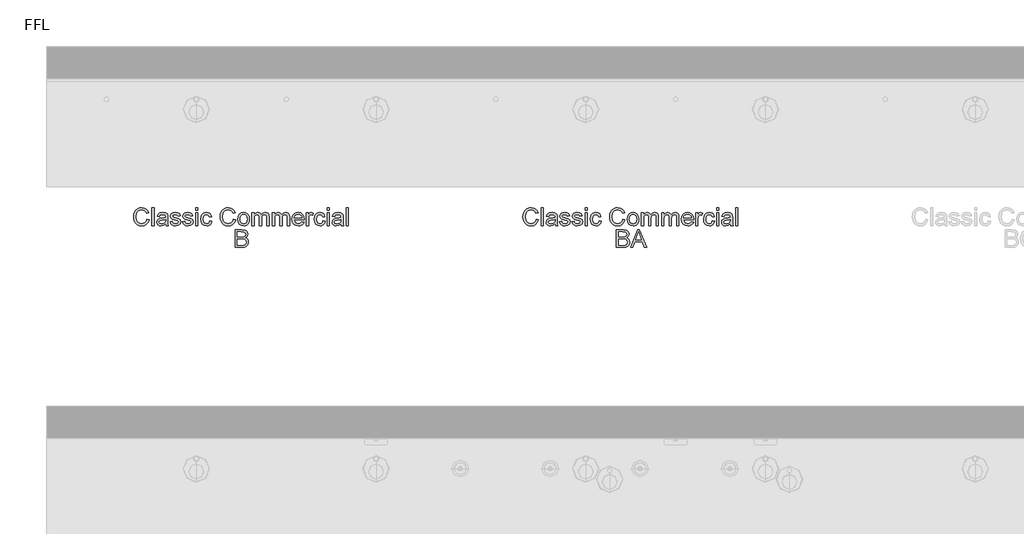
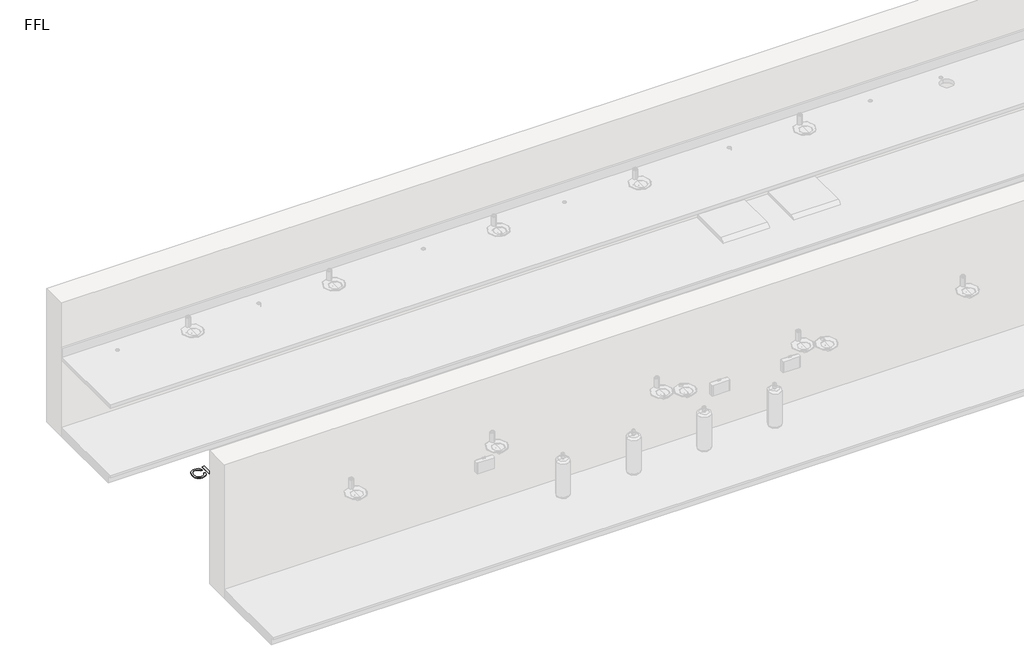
# One storey, part 7 of 13: 2 proxies.
"""IFC4 building model written with IfcOpenShell, lengths in millimetres."""

from ifc_helpers import new_model, si_unit, origin, origin_with_axes, place, context, project, spatial, polyline, outline, extrude, element, save

model = new_model("IFC4")

# Units and contexts
model_context = context("Model", 3, world=origin())
ifc_project = project(units=[si_unit("LENGTHUNIT", "METRE", prefix="MILLI")], contexts=[model_context])

# Site, building, storey
site = spatial("IfcSite", under=ifc_project)
building = spatial("IfcBuilding", under=site)
storey = spatial("IfcBuildingStorey", under=building, Name="FFL", Elevation=0.0)

# Proxies
placement = place(None, origin())
element("IfcBuildingElementProxy", 1, Name="150mm Arial", ObjectType="150mm Arial", at=placement, inside=storey, context=model_context, shape_type="SweptSolid", body=[
    extrude(outline(polyline([(-6132.8122159, 6676.3018309), (-6114.3506775, 6671.5422155), (-6122.8693073, 6650.0292948), (-6136.2376967, 6634.3126482), (-6153.7977929, 6624.698766), (-6174.8915429, 6621.4941386), (-6196.3053049, 6623.9190184), (-6213.311014, 6631.1936578), (-6226.3458698, 6643.065653), (-6235.8470717, 6659.2826001), (-6241.647853, 6678.3481049), (-6243.5814467, 6698.7657732), (-6241.3954491, 6720.3012299), (-6234.8374563, 6738.8979847), (-6224.2500164, 6753.9655929), (-6209.9756775, 6764.9136097), (-6193.0465909, 6771.5797756), (-6174.4949083, 6773.8018309), (-6154.2530212, 6770.9262299), (-6137.5177448, 6762.299427), (-6124.8119155, 6748.4532732), (-6116.6583698, 6729.9196193), (-6135.1199083, 6725.5205809), (-6141.5201486, 6738.9836217), (-6150.264139, 6748.2188982), (-6161.4600525, 6753.5599439), (-6175.2160621, 6755.3402924), (-6191.0724323, 6753.3661338), (-6204.0982736, 6747.4436578), (-6213.9825885, 6738.1948597), (-6220.4143794, 6726.2417347), (-6225.1199083, 6698.8018309), (-6219.5489948, 6666.9989463), (-6212.4276006, 6655.1224439), (-6202.2052448, 6646.6804367), (-6189.9501366, 6641.6368669), (-6176.7304852, 6639.955677), (-6161.3203289, 6642.2453405), (-6148.4792833, 6649.1143309), (-6138.7842712, 6660.4905328), (-6132.8122159, 6676.3018309)])), origin_with_axes(), (0.0, 0.0, 1.0), 5.0),
    extrude(outline(polyline([(-6091.2737544, 6623.8018309), (-6091.2737544, 6771.4941386), (-6072.8122159, 6771.4941386), (-6072.8122159, 6623.8018309), (-6091.2737544, 6623.8018309)])), origin_with_axes(), (0.0, 0.0, 1.0), 5.0),
    extrude(outline(polyline([(-5975.889139, 6637.6479847), (-5993.7917833, 6625.1359655), (-6013.5694275, 6621.4941386), (-6028.9976126, 6623.6846434), (-6040.3783217, 6630.2561578), (-6047.3960501, 6640.2351242), (-6049.7352929, 6652.6479847), (-6046.201639, 6667.2513501), (-6036.9167833, 6677.8523117), (-6023.9901006, 6683.910004), (-6008.0165429, 6686.6864463), (-5975.9973121, 6693.0326001), (-5975.889139, 6697.143177), (-5977.1601727, 6705.3823597), (-5980.9732736, 6710.7729847), (-5989.5009179, 6714.7753886), (-6001.3819275, 6716.1095232), (-6020.0598121, 6712.5578405), (-6028.9660621, 6699.955677), (-6047.4276006, 6702.2633693), (-6039.4408217, 6720.2922155), (-6023.3590909, 6730.8571193), (-5999.0021198, 6734.5710617), (-5976.6283217, 6731.2898117), (-5963.9901006, 6723.050629), (-5958.3290429, 6710.5205809), (-5957.4276006, 6694.3667347), (-5957.4276006, 6671.3979847), (-5956.4901006, 6639.3246674), (-5952.8122159, 6623.8018309), (-5971.2737544, 6623.8018309), (-5975.889139, 6637.6479847)]), holes=[polyline([(-5975.889139, 6674.5710617), (-6005.6727929, 6668.910004), (-6021.5562063, 6665.9172155), (-6028.7497159, 6661.049427), (-6031.2737544, 6653.9460617), (-6025.7749563, 6643.9580809), (-6009.639139, 6639.955677), (-5990.9612544, 6644.3727443), (-5978.9179852, 6655.0638501), (-5975.9973121, 6669.3426963), (-5975.889139, 6674.5710617)])]), origin_with_axes(), (0.0, 0.0, 1.0), 5.0),
    extrude(outline(polyline([(-5938.9660621, 6656.1095232), (-5920.5045236, 6658.4172155), (-5917.592865, 6650.5205809), (-5911.9588506, 6644.7152924), (-5892.3795236, 6639.955677), (-5873.5574083, 6644.3186578), (-5867.4276006, 6654.5590424), (-5873.5934659, 6662.8523117), (-5892.5958698, 6668.1167347), (-5920.3963506, 6677.1491867), (-5932.529764, 6687.6960617), (-5936.6583698, 6702.5878886), (-5933.3410621, 6716.3438982), (-5924.2905813, 6726.8547155), (-5912.5538025, 6732.3174559), (-5896.670389, 6734.5710617), (-5874.2064467, 6730.9472636), (-5859.9276006, 6721.1395713), (-5853.5814467, 6704.5710617), (-5872.0429852, 6702.2633693), (-5878.9840909, 6712.4496674), (-5895.2280813, 6716.1095232), (-5912.8963506, 6712.611927), (-5918.1968313, 6704.4628886), (-5915.9973121, 6699.0902924), (-5909.1102929, 6695.0157732), (-5893.2088506, 6691.0854847), (-5866.1114948, 6682.3955809), (-5853.5273602, 6672.5518309), (-5848.9660621, 6656.5061578), (-5854.3206294, 6638.8378886), (-5869.7713506, 6626.019379), (-5892.6319275, 6621.4941386), (-5911.2467111, 6623.675629), (-5924.8314467, 6630.2201001), (-5933.8999563, 6641.0554367), (-5938.9660621, 6656.1095232)])), origin_with_axes(), (0.0, 0.0, 1.0), 5.0),
    extrude(outline(polyline([(-5835.1199083, 6656.1095232), (-5816.6583698, 6658.4172155), (-5813.7467111, 6650.5205809), (-5808.1126967, 6644.7152924), (-5788.5333698, 6639.955677), (-5769.7112544, 6644.3186578), (-5763.5814467, 6654.5590424), (-5769.7473121, 6662.8523117), (-5788.7497159, 6668.1167347), (-5816.5501967, 6677.1491867), (-5828.6836102, 6687.6960617), (-5832.8122159, 6702.5878886), (-5829.4949083, 6716.3438982), (-5820.4444275, 6726.8547155), (-5808.7076486, 6732.3174559), (-5792.8242352, 6734.5710617), (-5770.3602929, 6730.9472636), (-5756.0814467, 6721.1395713), (-5749.7352929, 6704.5710617), (-5768.1968313, 6702.2633693), (-5775.1379371, 6712.4496674), (-5791.3819275, 6716.1095232), (-5809.0501967, 6712.611927), (-5814.3506775, 6704.4628886), (-5812.1511583, 6699.0902924), (-5805.264139, 6695.0157732), (-5789.3626967, 6691.0854847), (-5762.2653409, 6682.3955809), (-5749.6812063, 6672.5518309), (-5745.1199083, 6656.5061578), (-5750.4744756, 6638.8378886), (-5765.9251967, 6626.019379), (-5788.7857736, 6621.4941386), (-5807.4005573, 6623.675629), (-5820.9852929, 6630.2201001), (-5830.0538025, 6641.0554367), (-5835.1199083, 6656.1095232)])), origin_with_axes(), (0.0, 0.0, 1.0), 5.0),
    extrude(outline(polyline([(-5724.3506775, 6623.8018309), (-5724.3506775, 6732.2633693), (-5705.889139, 6732.2633693), (-5705.889139, 6623.8018309), (-5724.3506775, 6623.8018309)])), origin_with_axes(), (0.0, 0.0, 1.0), 5.0),
    extrude(outline(polyline([(-5724.3506775, 6753.0326001), (-5724.3506775, 6771.4941386), (-5705.889139, 6771.4941386), (-5705.889139, 6753.0326001), (-5724.3506775, 6753.0326001)])), origin_with_axes(), (0.0, 0.0, 1.0), 5.0),
    extrude(outline(polyline([(-5608.9660621, 6663.0326001), (-5590.5045236, 6660.7249078), (-5595.6517592, 6644.3051362), (-5605.3242352, 6631.8967828), (-5618.6114948, 6624.0947996), (-5634.6030813, 6621.4941386), (-5654.241002, 6625.1224439), (-5669.5970717, 6636.0073597), (-5679.5084299, 6653.6711217), (-5682.8122159, 6677.6359655), (-5677.1691871, 6708.3030328), (-5670.0477929, 6719.8009294), (-5659.9696679, 6728.0085617), (-5647.912877, 6732.9304367), (-5634.8554852, 6734.5710617), (-5619.256026, 6732.3174559), (-5606.7845717, 6725.5566386), (-5597.8377568, 6714.6491867), (-5592.8122159, 6699.955677), (-5611.2737544, 6697.6479847), (-5619.8374563, 6711.4761097), (-5634.7112544, 6716.1095232), (-5646.6418434, 6713.8288742), (-5656.1114948, 6706.986927), (-5662.2908818, 6695.2140905), (-5664.3506775, 6678.1407732), (-5662.3359539, 6660.8375881), (-5656.2917833, 6649.0241867), (-5646.9934059, 6642.2228044), (-5635.2160621, 6639.955677), (-5625.6562664, 6641.3709415), (-5617.8182256, 6645.6167347), (-5612.116603, 6652.8012299), (-5608.9660621, 6663.0326001)])), origin_with_axes(), (0.0, 0.0, 1.0), 5.0),
    extrude(outline(polyline([(-5410.5045236, 6676.3018309), (-5392.0429852, 6671.5422155), (-5400.561615, 6650.0292948), (-5413.9300044, 6634.3126482), (-5431.4901006, 6624.698766), (-5452.5838506, 6621.4941386), (-5473.9976126, 6623.9190184), (-5491.0033217, 6631.1936578), (-5504.0381775, 6643.065653), (-5513.5393794, 6659.2826001), (-5519.3401607, 6678.3481049), (-5521.2737544, 6698.7657732), (-5519.0877568, 6720.3012299), (-5512.529764, 6738.8979847), (-5501.9423241, 6753.9655929), (-5487.6679852, 6764.9136097), (-5470.7388986, 6771.5797756), (-5452.1872159, 6773.8018309), (-5431.9453289, 6770.9262299), (-5415.2100525, 6762.299427), (-5402.5042232, 6748.4532732), (-5394.3506775, 6729.9196193), (-5412.8122159, 6725.5205809), (-5419.2124563, 6738.9836217), (-5427.9564467, 6748.2188982), (-5439.1523602, 6753.5599439), (-5452.9083698, 6755.3402924), (-5468.76474, 6753.3661338), (-5481.7905813, 6747.4436578), (-5491.6748962, 6738.1948597), (-5498.1066871, 6726.2417347), (-5502.8122159, 6698.8018309), (-5497.2413025, 6666.9989463), (-5490.1199083, 6655.1224439), (-5479.8975525, 6646.6804367), (-5467.6424443, 6641.6368669), (-5454.4227929, 6639.955677), (-5439.0126366, 6642.2453405), (-5426.1715909, 6649.1143309), (-5416.4765789, 6660.4905328), (-5410.5045236, 6676.3018309)])), origin_with_axes(), (0.0, 0.0, 1.0), 5.0),
    extrude(outline(polyline([(-5373.5814467, 6678.0326001), (-5369.5880573, 6704.1834415), (-5357.607889, 6722.5638501), (-5342.8062063, 6731.5692588), (-5325.0838506, 6734.5710617), (-5305.6893193, 6730.9157131), (-5290.1980333, 6719.9496674), (-5280.0432857, 6702.5383092), (-5276.6583698, 6679.5470232), (-5278.154764, 6660.8961818), (-5282.6439467, 6646.6984655), (-5289.9952087, 6636.0659535), (-5300.0778409, 6628.1107251), (-5312.053502, 6623.1482852), (-5325.0838506, 6621.4941386), (-5344.7127568, 6625.1359655), (-5360.186014, 6636.0614463), (-5370.2325885, 6653.8378886), (-5373.5814467, 6678.0326001)]), holes=[polyline([(-5355.1199083, 6678.0686578), (-5352.98349, 6661.3604246), (-5346.5742352, 6649.456879), (-5336.9288025, 6642.3309775), (-5325.0838506, 6639.955677), (-5313.2929852, 6642.3444992), (-5303.6655813, 6649.5109655), (-5297.2563265, 6661.5722636), (-5295.1199083, 6678.6455809), (-5297.2698482, 6694.8670352), (-5303.7196679, 6706.6083213), (-5313.3605934, 6713.7342227), (-5325.0838506, 6716.1095232), (-5336.9288025, 6713.7432371), (-5346.5742352, 6706.644379), (-5352.98349, 6694.7678766), (-5355.1199083, 6678.0686578)])]), origin_with_axes(), (0.0, 0.0, 1.0), 5.0),
    extrude(outline(polyline([(-5255.889139, 6623.8018309), (-5255.889139, 6732.2633693), (-5237.4276006, 6732.2633693), (-5237.4276006, 6714.4148117), (-5224.7352929, 6729.0362059), (-5206.670389, 6734.5710617), (-5196.4029611, 6733.1603044), (-5188.1727929, 6728.9280328), (-5178.0045236, 6713.1167347), (-5163.5994756, 6729.2074799), (-5145.4083698, 6734.5710617), (-5131.5306655, 6732.3399919), (-5121.2677448, 6725.6467828), (-5114.9260982, 6714.3111458), (-5112.8122159, 6698.1527924), (-5112.8122159, 6623.8018309), (-5131.2737544, 6623.8018309), (-5131.2737544, 6690.2201001), (-5132.9864948, 6705.6347636), (-5139.1884179, 6713.2249078), (-5149.7352929, 6716.1095232), (-5159.7367953, 6714.2615665), (-5167.8903409, 6708.7176963), (-5173.3125164, 6699.0993068), (-5175.1199083, 6685.0277924), (-5175.1199083, 6623.8018309), (-5193.5814467, 6623.8018309), (-5193.5814467, 6692.2753886), (-5197.8542833, 6710.160004), (-5203.4928049, 6714.6221434), (-5211.8626967, 6716.1095232), (-5225.5285621, 6712.143177), (-5234.6151006, 6700.5326001), (-5237.4276006, 6678.5013501), (-5237.4276006, 6623.8018309), (-5255.889139, 6623.8018309)])), origin_with_axes(), (0.0, 0.0, 1.0), 5.0),
    extrude(outline(polyline([(-5085.1199083, 6623.8018309), (-5085.1199083, 6732.2633693), (-5066.6583698, 6732.2633693), (-5066.6583698, 6714.4148117), (-5053.9660621, 6729.0362059), (-5035.9011583, 6734.5710617), (-5025.6337304, 6733.1603044), (-5017.4035621, 6728.9280328), (-5007.2352929, 6713.1167347), (-4992.8302448, 6729.2074799), (-4974.639139, 6734.5710617), (-4960.7614347, 6732.3399919), (-4950.498514, 6725.6467828), (-4944.1568674, 6714.3111458), (-4942.0429852, 6698.1527924), (-4942.0429852, 6623.8018309), (-4960.5045236, 6623.8018309), (-4960.5045236, 6690.2201001), (-4962.217264, 6705.6347636), (-4968.4191871, 6713.2249078), (-4978.9660621, 6716.1095232), (-4988.9675645, 6714.2615665), (-4997.1211102, 6708.7176963), (-5002.5432857, 6699.0993068), (-5004.3506775, 6685.0277924), (-5004.3506775, 6623.8018309), (-5022.8122159, 6623.8018309), (-5022.8122159, 6692.2753886), (-5027.0850525, 6710.160004), (-5032.7235741, 6714.6221434), (-5041.0934659, 6716.1095232), (-5054.7593313, 6712.143177), (-5063.8458698, 6700.5326001), (-5066.6583698, 6678.5013501), (-5066.6583698, 6623.8018309), (-5085.1199083, 6623.8018309)])), origin_with_axes(), (0.0, 0.0, 1.0), 5.0),
    extrude(outline(polyline([(-4838.4131775, 6656.1095232), (-4820.3122159, 6653.8018309), (-4826.834151, 6640.1630088), (-4837.2413025, 6629.9676963), (-4851.2992953, 6623.612528), (-4868.7737544, 6621.4941386), (-4890.4354131, 6625.1494871), (-4907.1030813, 6636.1155328), (-4917.7310861, 6653.6801362), (-4921.2737544, 6677.1311578), (-4917.6950284, 6701.3709415), (-4906.9588506, 6719.4989463), (-4890.5165429, 6730.8030328), (-4869.8194275, 6734.5710617), (-4849.7668434, 6730.8120472), (-4833.7437063, 6719.535004), (-4823.2373962, 6701.4430568), (-4819.7352929, 6677.2393309), (-4819.8434659, 6672.2633693), (-4902.8122159, 6672.2633693), (-4899.616603, 6658.4442588), (-4892.1932256, 6648.285004), (-4881.4795837, 6642.0380088), (-4868.4131775, 6639.955677), (-4850.3122159, 6643.8138501), (-4838.4131775, 6656.1095232)]), holes=[polyline([(-4902.8122159, 6690.7249078), (-4838.1968313, 6690.7249078), (-4840.6938265, 6700.4785136), (-4845.5886583, 6707.455677), (-4856.3518794, 6713.9460617), (-4869.8915429, 6716.1095232), (-4882.3359539, 6714.3832612), (-4892.6259179, 6709.2044751), (-4899.7788626, 6701.1320592), (-4902.8122159, 6690.7249078)])]), origin_with_axes(), (0.0, 0.0, 1.0), 5.0),
    extrude(outline(polyline([(-4801.2737544, 6623.8018309), (-4801.2737544, 6732.2633693), (-4785.1199083, 6732.2633693), (-4785.1199083, 6716.2176963), (-4773.6535621, 6731.0013501), (-4762.1151006, 6734.5710617), (-4743.5814467, 6728.8739463), (-4749.7473121, 6712.3234655), (-4762.7280813, 6716.1095232), (-4773.1667833, 6712.4676963), (-4779.8194275, 6702.3715424), (-4782.8122159, 6680.8090424), (-4782.8122159, 6623.8018309), (-4801.2737544, 6623.8018309)])), origin_with_axes(), (0.0, 0.0, 1.0), 5.0),
    extrude(outline(polyline([(-4662.8122159, 6663.0326001), (-4644.3506775, 6660.7249078), (-4649.4979131, 6644.3051362), (-4659.170389, 6631.8967828), (-4672.4576486, 6624.0947996), (-4688.4492352, 6621.4941386), (-4708.0871559, 6625.1224439), (-4723.4432256, 6636.0073597), (-4733.3545837, 6653.6711217), (-4736.6583698, 6677.6359655), (-4731.0153409, 6708.3030328), (-4723.8939467, 6719.8009294), (-4713.8158217, 6728.0085617), (-4701.7590309, 6732.9304367), (-4688.701639, 6734.5710617), (-4673.1021799, 6732.3174559), (-4660.6307256, 6725.5566386), (-4651.6839107, 6714.6491867), (-4646.6583698, 6699.955677), (-4665.1199083, 6697.6479847), (-4673.6836102, 6711.4761097), (-4688.5574083, 6716.1095232), (-4700.4879972, 6713.8288742), (-4709.9576486, 6706.986927), (-4716.1370357, 6695.2140905), (-4718.1968313, 6678.1407732), (-4716.1821078, 6660.8375881), (-4710.1379371, 6649.0241867), (-4700.8395597, 6642.2228044), (-4689.0622159, 6639.955677), (-4679.5024203, 6641.3709415), (-4671.6643794, 6645.6167347), (-4665.9627568, 6652.8012299), (-4662.8122159, 6663.0326001)])), origin_with_axes(), (0.0, 0.0, 1.0), 5.0),
    extrude(outline(polyline([(-4628.1968313, 6623.8018309), (-4628.1968313, 6732.2633693), (-4609.7352929, 6732.2633693), (-4609.7352929, 6623.8018309), (-4628.1968313, 6623.8018309)])), origin_with_axes(), (0.0, 0.0, 1.0), 5.0),
    extrude(outline(polyline([(-4628.1968313, 6753.0326001), (-4628.1968313, 6771.4941386), (-4609.7352929, 6771.4941386), (-4609.7352929, 6753.0326001), (-4628.1968313, 6753.0326001)])), origin_with_axes(), (0.0, 0.0, 1.0), 5.0),
    extrude(outline(polyline([(-4512.8122159, 6637.6479847), (-4530.7148602, 6625.1359655), (-4550.4925044, 6621.4941386), (-4565.9206895, 6623.6846434), (-4577.3013986, 6630.2561578), (-4584.319127, 6640.2351242), (-4586.6583698, 6652.6479847), (-4583.1247159, 6667.2513501), (-4573.8398602, 6677.8523117), (-4560.9131775, 6683.910004), (-4544.9396198, 6686.6864463), (-4512.920389, 6693.0326001), (-4512.8122159, 6697.143177), (-4514.0832496, 6705.3823597), (-4517.8963506, 6710.7729847), (-4526.4239948, 6714.7753886), (-4538.3050044, 6716.1095232), (-4556.982889, 6712.5578405), (-4565.889139, 6699.955677), (-4584.3506775, 6702.2633693), (-4576.3638986, 6720.2922155), (-4560.2821679, 6730.8571193), (-4535.9251967, 6734.5710617), (-4513.5513986, 6731.2898117), (-4500.9131775, 6723.050629), (-4495.2521198, 6710.5205809), (-4494.3506775, 6694.3667347), (-4494.3506775, 6671.3979847), (-4493.4131775, 6639.3246674), (-4489.7352929, 6623.8018309), (-4508.1968313, 6623.8018309), (-4512.8122159, 6637.6479847)]), holes=[polyline([(-4512.8122159, 6674.5710617), (-4542.5958698, 6668.910004), (-4558.4792833, 6665.9172155), (-4565.6727929, 6661.049427), (-4568.1968313, 6653.9460617), (-4562.6980333, 6643.9580809), (-4546.5622159, 6639.955677), (-4527.8843313, 6644.3727443), (-4515.8410621, 6655.0638501), (-4512.920389, 6669.3426963), (-4512.8122159, 6674.5710617)])]), origin_with_axes(), (0.0, 0.0, 1.0), 5.0),
    extrude(outline(polyline([(-4468.9660621, 6623.8018309), (-4468.9660621, 6771.4941386), (-4450.5045236, 6771.4941386), (-4450.5045236, 6623.8018309), (-4468.9660621, 6623.8018309)])), origin_with_axes(), (0.0, 0.0, 1.0), 5.0),
    extrude(outline(polyline([(-5396.6583698, 6441.4941386), (-5396.6583698, 6589.1864463), (-5340.3001967, 6589.1864463), (-5312.6980333, 6584.8414943), (-5303.4221919, 6579.3291746), (-5296.3999563, 6571.4821193), (-5290.5045236, 6552.5878886), (-5295.4624563, 6535.3342828), (-5310.4444275, 6522.2633693), (-5299.9831895, 6516.800629), (-5292.2533217, 6508.4893309), (-5287.4801847, 6497.8793549), (-5285.889139, 6485.5205809), (-5290.2340909, 6465.6708213), (-5300.9973121, 6451.5362059), (-5317.061014, 6444.0362059), (-5340.732889, 6441.4941386), (-5396.6583698, 6441.4941386)]), holes=[polyline([(-5378.1968313, 6529.1864463), (-5344.482889, 6529.1864463), (-5324.795389, 6530.7729847), (-5312.9504371, 6537.6059174), (-5308.9660621, 6549.6311578), (-5312.6800044, 6561.674427), (-5323.3170236, 6568.7958213), (-5347.0429852, 6570.7249078), (-5378.1968313, 6570.7249078), (-5378.1968313, 6529.1864463)]), polyline([(-5378.1968313, 6459.955677), (-5340.3362544, 6459.955677), (-5326.6343313, 6460.6768309), (-5315.0417833, 6464.6972636), (-5307.3614948, 6472.9003886), (-5304.3506775, 6485.3402924), (-5307.8843313, 6499.691254), (-5319.3326486, 6508.2549559), (-5342.139139, 6510.7249078), (-5378.1968313, 6510.7249078), (-5378.1968313, 6459.955677)])]), origin_with_axes(), (0.0, 0.0, 1.0), 5.0),
])
element("IfcBuildingElementProxy", 2, Name="150mm Arial", ObjectType="150mm Arial", at=placement, inside=storey, context=model_context, shape_type="SweptSolid", body=[
    extrude(outline(polyline([(-2882.8122159, 6676.3018309), (-2864.3506775, 6671.5422155), (-2872.8693073, 6650.0292948), (-2886.2376967, 6634.3126482), (-2903.7977929, 6624.698766), (-2924.8915429, 6621.4941386), (-2946.3053049, 6623.9190184), (-2963.311014, 6631.1936578), (-2976.3458698, 6643.065653), (-2985.8470717, 6659.2826001), (-2991.647853, 6678.3481049), (-2993.5814467, 6698.7657732), (-2991.3954491, 6720.3012299), (-2984.8374563, 6738.8979847), (-2974.2500164, 6753.9655929), (-2959.9756775, 6764.9136097), (-2943.0465909, 6771.5797756), (-2924.4949083, 6773.8018309), (-2904.2530212, 6770.9262299), (-2887.5177448, 6762.299427), (-2874.8119155, 6748.4532732), (-2866.6583698, 6729.9196193), (-2885.1199083, 6725.5205809), (-2891.5201486, 6738.9836217), (-2900.264139, 6748.2188982), (-2911.4600525, 6753.5599439), (-2925.2160621, 6755.3402924), (-2941.0724323, 6753.3661338), (-2954.0982736, 6747.4436578), (-2963.9825885, 6738.1948597), (-2970.4143794, 6726.2417347), (-2975.1199083, 6698.8018309), (-2969.5489948, 6666.9989463), (-2962.4276006, 6655.1224439), (-2952.2052448, 6646.6804367), (-2939.9501366, 6641.6368669), (-2926.7304852, 6639.955677), (-2911.3203289, 6642.2453405), (-2898.4792833, 6649.1143309), (-2888.7842712, 6660.4905328), (-2882.8122159, 6676.3018309)])), origin_with_axes(), (0.0, 0.0, 1.0), 5.0),
    extrude(outline(polyline([(-2841.2737544, 6623.8018309), (-2841.2737544, 6771.4941386), (-2822.8122159, 6771.4941386), (-2822.8122159, 6623.8018309), (-2841.2737544, 6623.8018309)])), origin_with_axes(), (0.0, 0.0, 1.0), 5.0),
    extrude(outline(polyline([(-2725.889139, 6637.6479847), (-2743.7917833, 6625.1359655), (-2763.5694275, 6621.4941386), (-2778.9976126, 6623.6846434), (-2790.3783217, 6630.2561578), (-2797.3960501, 6640.2351242), (-2799.7352929, 6652.6479847), (-2796.201639, 6667.2513501), (-2786.9167833, 6677.8523117), (-2773.9901006, 6683.910004), (-2758.0165429, 6686.6864463), (-2725.9973121, 6693.0326001), (-2725.889139, 6697.143177), (-2727.1601727, 6705.3823597), (-2730.9732736, 6710.7729847), (-2739.5009179, 6714.7753886), (-2751.3819275, 6716.1095232), (-2770.0598121, 6712.5578405), (-2778.9660621, 6699.955677), (-2797.4276006, 6702.2633693), (-2789.4408217, 6720.2922155), (-2773.3590909, 6730.8571193), (-2749.0021198, 6734.5710617), (-2726.6283217, 6731.2898117), (-2713.9901006, 6723.050629), (-2708.3290429, 6710.5205809), (-2707.4276006, 6694.3667347), (-2707.4276006, 6671.3979847), (-2706.4901006, 6639.3246674), (-2702.8122159, 6623.8018309), (-2721.2737544, 6623.8018309), (-2725.889139, 6637.6479847)]), holes=[polyline([(-2725.889139, 6674.5710617), (-2755.6727929, 6668.910004), (-2771.5562063, 6665.9172155), (-2778.7497159, 6661.049427), (-2781.2737544, 6653.9460617), (-2775.7749563, 6643.9580809), (-2759.639139, 6639.955677), (-2740.9612544, 6644.3727443), (-2728.9179852, 6655.0638501), (-2725.9973121, 6669.3426963), (-2725.889139, 6674.5710617)])]), origin_with_axes(), (0.0, 0.0, 1.0), 5.0),
    extrude(outline(polyline([(-2688.9660621, 6656.1095232), (-2670.5045236, 6658.4172155), (-2667.592865, 6650.5205809), (-2661.9588506, 6644.7152924), (-2642.3795236, 6639.955677), (-2623.5574083, 6644.3186578), (-2617.4276006, 6654.5590424), (-2623.5934659, 6662.8523117), (-2642.5958698, 6668.1167347), (-2670.3963506, 6677.1491867), (-2682.529764, 6687.6960617), (-2686.6583698, 6702.5878886), (-2683.3410621, 6716.3438982), (-2674.2905813, 6726.8547155), (-2662.5538025, 6732.3174559), (-2646.670389, 6734.5710617), (-2624.2064467, 6730.9472636), (-2609.9276006, 6721.1395713), (-2603.5814467, 6704.5710617), (-2622.0429852, 6702.2633693), (-2628.9840909, 6712.4496674), (-2645.2280813, 6716.1095232), (-2662.8963506, 6712.611927), (-2668.1968313, 6704.4628886), (-2665.9973121, 6699.0902924), (-2659.1102929, 6695.0157732), (-2643.2088506, 6691.0854847), (-2616.1114948, 6682.3955809), (-2603.5273602, 6672.5518309), (-2598.9660621, 6656.5061578), (-2604.3206294, 6638.8378886), (-2619.7713506, 6626.019379), (-2642.6319275, 6621.4941386), (-2661.2467111, 6623.675629), (-2674.8314467, 6630.2201001), (-2683.8999563, 6641.0554367), (-2688.9660621, 6656.1095232)])), origin_with_axes(), (0.0, 0.0, 1.0), 5.0),
    extrude(outline(polyline([(-2585.1199083, 6656.1095232), (-2566.6583698, 6658.4172155), (-2563.7467111, 6650.5205809), (-2558.1126967, 6644.7152924), (-2538.5333698, 6639.955677), (-2519.7112544, 6644.3186578), (-2513.5814467, 6654.5590424), (-2519.7473121, 6662.8523117), (-2538.7497159, 6668.1167347), (-2566.5501967, 6677.1491867), (-2578.6836102, 6687.6960617), (-2582.8122159, 6702.5878886), (-2579.4949083, 6716.3438982), (-2570.4444275, 6726.8547155), (-2558.7076486, 6732.3174559), (-2542.8242352, 6734.5710617), (-2520.3602929, 6730.9472636), (-2506.0814467, 6721.1395713), (-2499.7352929, 6704.5710617), (-2518.1968313, 6702.2633693), (-2525.1379371, 6712.4496674), (-2541.3819275, 6716.1095232), (-2559.0501967, 6712.611927), (-2564.3506775, 6704.4628886), (-2562.1511583, 6699.0902924), (-2555.264139, 6695.0157732), (-2539.3626967, 6691.0854847), (-2512.2653409, 6682.3955809), (-2499.6812063, 6672.5518309), (-2495.1199083, 6656.5061578), (-2500.4744756, 6638.8378886), (-2515.9251967, 6626.019379), (-2538.7857736, 6621.4941386), (-2557.4005573, 6623.675629), (-2570.9852929, 6630.2201001), (-2580.0538025, 6641.0554367), (-2585.1199083, 6656.1095232)])), origin_with_axes(), (0.0, 0.0, 1.0), 5.0),
    extrude(outline(polyline([(-2474.3506775, 6623.8018309), (-2474.3506775, 6732.2633693), (-2455.889139, 6732.2633693), (-2455.889139, 6623.8018309), (-2474.3506775, 6623.8018309)])), origin_with_axes(), (0.0, 0.0, 1.0), 5.0),
    extrude(outline(polyline([(-2474.3506775, 6753.0326001), (-2474.3506775, 6771.4941386), (-2455.889139, 6771.4941386), (-2455.889139, 6753.0326001), (-2474.3506775, 6753.0326001)])), origin_with_axes(), (0.0, 0.0, 1.0), 5.0),
    extrude(outline(polyline([(-2358.9660621, 6663.0326001), (-2340.5045236, 6660.7249078), (-2345.6517592, 6644.3051362), (-2355.3242352, 6631.8967828), (-2368.6114948, 6624.0947996), (-2384.6030813, 6621.4941386), (-2404.241002, 6625.1224439), (-2419.5970717, 6636.0073597), (-2429.5084299, 6653.6711217), (-2432.8122159, 6677.6359655), (-2427.1691871, 6708.3030328), (-2420.0477929, 6719.8009294), (-2409.9696679, 6728.0085617), (-2397.912877, 6732.9304367), (-2384.8554852, 6734.5710617), (-2369.256026, 6732.3174559), (-2356.7845717, 6725.5566386), (-2347.8377568, 6714.6491867), (-2342.8122159, 6699.955677), (-2361.2737544, 6697.6479847), (-2369.8374563, 6711.4761097), (-2384.7112544, 6716.1095232), (-2396.6418434, 6713.8288742), (-2406.1114948, 6706.986927), (-2412.2908818, 6695.2140905), (-2414.3506775, 6678.1407732), (-2412.3359539, 6660.8375881), (-2406.2917833, 6649.0241867), (-2396.9934059, 6642.2228044), (-2385.2160621, 6639.955677), (-2375.6562664, 6641.3709415), (-2367.8182256, 6645.6167347), (-2362.116603, 6652.8012299), (-2358.9660621, 6663.0326001)])), origin_with_axes(), (0.0, 0.0, 1.0), 5.0),
    extrude(outline(polyline([(-2160.5045236, 6676.3018309), (-2142.0429852, 6671.5422155), (-2150.561615, 6650.0292948), (-2163.9300044, 6634.3126482), (-2181.4901006, 6624.698766), (-2202.5838506, 6621.4941386), (-2223.9976126, 6623.9190184), (-2241.0033217, 6631.1936578), (-2254.0381775, 6643.065653), (-2263.5393794, 6659.2826001), (-2269.3401607, 6678.3481049), (-2271.2737544, 6698.7657732), (-2269.0877568, 6720.3012299), (-2262.529764, 6738.8979847), (-2251.9423241, 6753.9655929), (-2237.6679852, 6764.9136097), (-2220.7388986, 6771.5797756), (-2202.1872159, 6773.8018309), (-2181.9453289, 6770.9262299), (-2165.2100525, 6762.299427), (-2152.5042232, 6748.4532732), (-2144.3506775, 6729.9196193), (-2162.8122159, 6725.5205809), (-2169.2124563, 6738.9836217), (-2177.9564467, 6748.2188982), (-2189.1523602, 6753.5599439), (-2202.9083698, 6755.3402924), (-2218.76474, 6753.3661338), (-2231.7905813, 6747.4436578), (-2241.6748962, 6738.1948597), (-2248.1066871, 6726.2417347), (-2252.8122159, 6698.8018309), (-2247.2413025, 6666.9989463), (-2240.1199083, 6655.1224439), (-2229.8975525, 6646.6804367), (-2217.6424443, 6641.6368669), (-2204.4227929, 6639.955677), (-2189.0126366, 6642.2453405), (-2176.1715909, 6649.1143309), (-2166.4765789, 6660.4905328), (-2160.5045236, 6676.3018309)])), origin_with_axes(), (0.0, 0.0, 1.0), 5.0),
    extrude(outline(polyline([(-2123.5814467, 6678.0326001), (-2119.5880573, 6704.1834415), (-2107.607889, 6722.5638501), (-2092.8062063, 6731.5692588), (-2075.0838506, 6734.5710617), (-2055.6893193, 6730.9157131), (-2040.1980333, 6719.9496674), (-2030.0432857, 6702.5383092), (-2026.6583698, 6679.5470232), (-2028.154764, 6660.8961818), (-2032.6439467, 6646.6984655), (-2039.9952087, 6636.0659535), (-2050.0778409, 6628.1107251), (-2062.053502, 6623.1482852), (-2075.0838506, 6621.4941386), (-2094.7127568, 6625.1359655), (-2110.186014, 6636.0614463), (-2120.2325885, 6653.8378886), (-2123.5814467, 6678.0326001)]), holes=[polyline([(-2105.1199083, 6678.0686578), (-2102.98349, 6661.3604246), (-2096.5742352, 6649.456879), (-2086.9288025, 6642.3309775), (-2075.0838506, 6639.955677), (-2063.2929852, 6642.3444992), (-2053.6655813, 6649.5109655), (-2047.2563265, 6661.5722636), (-2045.1199083, 6678.6455809), (-2047.2698482, 6694.8670352), (-2053.7196679, 6706.6083213), (-2063.3605934, 6713.7342227), (-2075.0838506, 6716.1095232), (-2086.9288025, 6713.7432371), (-2096.5742352, 6706.644379), (-2102.98349, 6694.7678766), (-2105.1199083, 6678.0686578)])]), origin_with_axes(), (0.0, 0.0, 1.0), 5.0),
    extrude(outline(polyline([(-2005.889139, 6623.8018309), (-2005.889139, 6732.2633693), (-1987.4276006, 6732.2633693), (-1987.4276006, 6714.4148117), (-1974.7352929, 6729.0362059), (-1956.670389, 6734.5710617), (-1946.4029611, 6733.1603044), (-1938.1727929, 6728.9280328), (-1928.0045236, 6713.1167347), (-1913.5994756, 6729.2074799), (-1895.4083698, 6734.5710617), (-1881.5306655, 6732.3399919), (-1871.2677448, 6725.6467828), (-1864.9260982, 6714.3111458), (-1862.8122159, 6698.1527924), (-1862.8122159, 6623.8018309), (-1881.2737544, 6623.8018309), (-1881.2737544, 6690.2201001), (-1882.9864948, 6705.6347636), (-1889.1884179, 6713.2249078), (-1899.7352929, 6716.1095232), (-1909.7367953, 6714.2615665), (-1917.8903409, 6708.7176963), (-1923.3125164, 6699.0993068), (-1925.1199083, 6685.0277924), (-1925.1199083, 6623.8018309), (-1943.5814467, 6623.8018309), (-1943.5814467, 6692.2753886), (-1947.8542833, 6710.160004), (-1953.4928049, 6714.6221434), (-1961.8626967, 6716.1095232), (-1975.5285621, 6712.143177), (-1984.6151006, 6700.5326001), (-1987.4276006, 6678.5013501), (-1987.4276006, 6623.8018309), (-2005.889139, 6623.8018309)])), origin_with_axes(), (0.0, 0.0, 1.0), 5.0),
    extrude(outline(polyline([(-1835.1199083, 6623.8018309), (-1835.1199083, 6732.2633693), (-1816.6583698, 6732.2633693), (-1816.6583698, 6714.4148117), (-1803.9660621, 6729.0362059), (-1785.9011583, 6734.5710617), (-1775.6337304, 6733.1603044), (-1767.4035621, 6728.9280328), (-1757.2352929, 6713.1167347), (-1742.8302448, 6729.2074799), (-1724.639139, 6734.5710617), (-1710.7614347, 6732.3399919), (-1700.498514, 6725.6467828), (-1694.1568674, 6714.3111458), (-1692.0429852, 6698.1527924), (-1692.0429852, 6623.8018309), (-1710.5045236, 6623.8018309), (-1710.5045236, 6690.2201001), (-1712.217264, 6705.6347636), (-1718.4191871, 6713.2249078), (-1728.9660621, 6716.1095232), (-1738.9675645, 6714.2615665), (-1747.1211102, 6708.7176963), (-1752.5432857, 6699.0993068), (-1754.3506775, 6685.0277924), (-1754.3506775, 6623.8018309), (-1772.8122159, 6623.8018309), (-1772.8122159, 6692.2753886), (-1777.0850525, 6710.160004), (-1782.7235741, 6714.6221434), (-1791.0934659, 6716.1095232), (-1804.7593313, 6712.143177), (-1813.8458698, 6700.5326001), (-1816.6583698, 6678.5013501), (-1816.6583698, 6623.8018309), (-1835.1199083, 6623.8018309)])), origin_with_axes(), (0.0, 0.0, 1.0), 5.0),
    extrude(outline(polyline([(-1588.4131775, 6656.1095232), (-1570.3122159, 6653.8018309), (-1576.834151, 6640.1630088), (-1587.2413025, 6629.9676963), (-1601.2992953, 6623.612528), (-1618.7737544, 6621.4941386), (-1640.4354131, 6625.1494871), (-1657.1030813, 6636.1155328), (-1667.7310861, 6653.6801362), (-1671.2737544, 6677.1311578), (-1667.6950284, 6701.3709415), (-1656.9588506, 6719.4989463), (-1640.5165429, 6730.8030328), (-1619.8194275, 6734.5710617), (-1599.7668434, 6730.8120472), (-1583.7437063, 6719.535004), (-1573.2373962, 6701.4430568), (-1569.7352929, 6677.2393309), (-1569.8434659, 6672.2633693), (-1652.8122159, 6672.2633693), (-1649.616603, 6658.4442588), (-1642.1932256, 6648.285004), (-1631.4795837, 6642.0380088), (-1618.4131775, 6639.955677), (-1600.3122159, 6643.8138501), (-1588.4131775, 6656.1095232)]), holes=[polyline([(-1652.8122159, 6690.7249078), (-1588.1968313, 6690.7249078), (-1590.6938265, 6700.4785136), (-1595.5886583, 6707.455677), (-1606.3518794, 6713.9460617), (-1619.8915429, 6716.1095232), (-1632.3359539, 6714.3832612), (-1642.6259179, 6709.2044751), (-1649.7788626, 6701.1320592), (-1652.8122159, 6690.7249078)])]), origin_with_axes(), (0.0, 0.0, 1.0), 5.0),
    extrude(outline(polyline([(-1551.2737544, 6623.8018309), (-1551.2737544, 6732.2633693), (-1535.1199083, 6732.2633693), (-1535.1199083, 6716.2176963), (-1523.6535621, 6731.0013501), (-1512.1151006, 6734.5710617), (-1493.5814467, 6728.8739463), (-1499.7473121, 6712.3234655), (-1512.7280813, 6716.1095232), (-1523.1667833, 6712.4676963), (-1529.8194275, 6702.3715424), (-1532.8122159, 6680.8090424), (-1532.8122159, 6623.8018309), (-1551.2737544, 6623.8018309)])), origin_with_axes(), (0.0, 0.0, 1.0), 5.0),
    extrude(outline(polyline([(-1412.8122159, 6663.0326001), (-1394.3506775, 6660.7249078), (-1399.4979131, 6644.3051362), (-1409.170389, 6631.8967828), (-1422.4576486, 6624.0947996), (-1438.4492352, 6621.4941386), (-1458.0871559, 6625.1224439), (-1473.4432256, 6636.0073597), (-1483.3545837, 6653.6711217), (-1486.6583698, 6677.6359655), (-1481.0153409, 6708.3030328), (-1473.8939467, 6719.8009294), (-1463.8158217, 6728.0085617), (-1451.7590309, 6732.9304367), (-1438.701639, 6734.5710617), (-1423.1021799, 6732.3174559), (-1410.6307256, 6725.5566386), (-1401.6839107, 6714.6491867), (-1396.6583698, 6699.955677), (-1415.1199083, 6697.6479847), (-1423.6836102, 6711.4761097), (-1438.5574083, 6716.1095232), (-1450.4879972, 6713.8288742), (-1459.9576486, 6706.986927), (-1466.1370357, 6695.2140905), (-1468.1968313, 6678.1407732), (-1466.1821078, 6660.8375881), (-1460.1379371, 6649.0241867), (-1450.8395597, 6642.2228044), (-1439.0622159, 6639.955677), (-1429.5024203, 6641.3709415), (-1421.6643794, 6645.6167347), (-1415.9627568, 6652.8012299), (-1412.8122159, 6663.0326001)])), origin_with_axes(), (0.0, 0.0, 1.0), 5.0),
    extrude(outline(polyline([(-1378.1968313, 6623.8018309), (-1378.1968313, 6732.2633693), (-1359.7352929, 6732.2633693), (-1359.7352929, 6623.8018309), (-1378.1968313, 6623.8018309)])), origin_with_axes(), (0.0, 0.0, 1.0), 5.0),
    extrude(outline(polyline([(-1378.1968313, 6753.0326001), (-1378.1968313, 6771.4941386), (-1359.7352929, 6771.4941386), (-1359.7352929, 6753.0326001), (-1378.1968313, 6753.0326001)])), origin_with_axes(), (0.0, 0.0, 1.0), 5.0),
    extrude(outline(polyline([(-1262.8122159, 6637.6479847), (-1280.7148602, 6625.1359655), (-1300.4925044, 6621.4941386), (-1315.9206895, 6623.6846434), (-1327.3013986, 6630.2561578), (-1334.319127, 6640.2351242), (-1336.6583698, 6652.6479847), (-1333.1247159, 6667.2513501), (-1323.8398602, 6677.8523117), (-1310.9131775, 6683.910004), (-1294.9396198, 6686.6864463), (-1262.920389, 6693.0326001), (-1262.8122159, 6697.143177), (-1264.0832496, 6705.3823597), (-1267.8963506, 6710.7729847), (-1276.4239948, 6714.7753886), (-1288.3050044, 6716.1095232), (-1306.982889, 6712.5578405), (-1315.889139, 6699.955677), (-1334.3506775, 6702.2633693), (-1326.3638986, 6720.2922155), (-1310.2821679, 6730.8571193), (-1285.9251967, 6734.5710617), (-1263.5513986, 6731.2898117), (-1250.9131775, 6723.050629), (-1245.2521198, 6710.5205809), (-1244.3506775, 6694.3667347), (-1244.3506775, 6671.3979847), (-1243.4131775, 6639.3246674), (-1239.7352929, 6623.8018309), (-1258.1968313, 6623.8018309), (-1262.8122159, 6637.6479847)]), holes=[polyline([(-1262.8122159, 6674.5710617), (-1292.5958698, 6668.910004), (-1308.4792833, 6665.9172155), (-1315.6727929, 6661.049427), (-1318.1968313, 6653.9460617), (-1312.6980333, 6643.9580809), (-1296.5622159, 6639.955677), (-1277.8843313, 6644.3727443), (-1265.8410621, 6655.0638501), (-1262.920389, 6669.3426963), (-1262.8122159, 6674.5710617)])]), origin_with_axes(), (0.0, 0.0, 1.0), 5.0),
    extrude(outline(polyline([(-1218.9660621, 6623.8018309), (-1218.9660621, 6771.4941386), (-1200.5045236, 6771.4941386), (-1200.5045236, 6623.8018309), (-1218.9660621, 6623.8018309)])), origin_with_axes(), (0.0, 0.0, 1.0), 5.0),
    extrude(outline(polyline([(-2214.7352929, 6441.4941386), (-2214.7352929, 6589.1864463), (-2158.3771198, 6589.1864463), (-2130.7749563, 6584.8414943), (-2121.499115, 6579.3291746), (-2114.4768794, 6571.4821193), (-2108.5814467, 6552.5878886), (-2113.5393794, 6535.3342828), (-2128.5213506, 6522.2633693), (-2118.0601126, 6516.800629), (-2110.3302448, 6508.4893309), (-2105.5571078, 6497.8793549), (-2103.9660621, 6485.5205809), (-2108.311014, 6465.6708213), (-2119.0742352, 6451.5362059), (-2135.1379371, 6444.0362059), (-2158.8098121, 6441.4941386), (-2214.7352929, 6441.4941386)]), holes=[polyline([(-2196.2737544, 6529.1864463), (-2162.5598121, 6529.1864463), (-2142.8723121, 6530.7729847), (-2131.0273602, 6537.6059174), (-2127.0429852, 6549.6311578), (-2130.7569275, 6561.674427), (-2141.3939467, 6568.7958213), (-2165.1199083, 6570.7249078), (-2196.2737544, 6570.7249078), (-2196.2737544, 6529.1864463)]), polyline([(-2196.2737544, 6459.955677), (-2158.4131775, 6459.955677), (-2144.7112544, 6460.6768309), (-2133.1187063, 6464.6972636), (-2125.4384179, 6472.9003886), (-2122.4276006, 6485.3402924), (-2125.9612544, 6499.691254), (-2137.4095717, 6508.2549559), (-2160.2160621, 6510.7249078), (-2196.2737544, 6510.7249078), (-2196.2737544, 6459.955677)])]), origin_with_axes(), (0.0, 0.0, 1.0), 5.0),
    extrude(outline(polyline([(-2095.7809659, 6441.4941386), (-2036.826639, 6589.1864463), (-2021.1054852, 6589.1864463), (-1962.1511583, 6441.4941386), (-1981.6583698, 6441.4941386), (-1998.5694275, 6487.6479847), (-2059.3987544, 6487.6479847), (-2076.2737544, 6441.4941386), (-2095.7809659, 6441.4941386)]), holes=[polyline([(-2052.6199083, 6506.1095232), (-2005.3122159, 6506.1095232), (-2018.6175044, 6542.4196193), (-2028.9660621, 6570.7249078), (-2038.1607736, 6545.5926963), (-2052.6199083, 6506.1095232)])]), origin_with_axes(), (0.0, 0.0, 1.0), 5.0),
])

save(model, "model.ifc")
